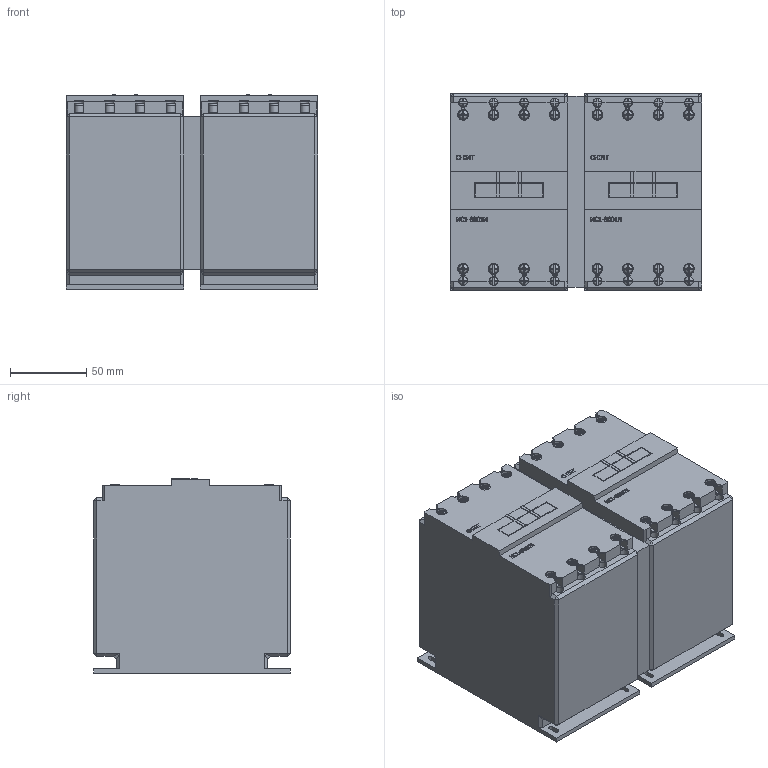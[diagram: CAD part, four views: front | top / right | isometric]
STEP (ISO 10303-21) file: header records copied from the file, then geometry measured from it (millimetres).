
FILE_DESCRIPTION(/* description */ (''),/* implementation_level */ '2;1');
FILE_NAME(/* name */ 'D:\CHINT2\NC1-N\NC1-8001N 230В 50Гц.stp',/* time_stamp */ '2017-11-12T20:43:09+03:00',/* author */ ('RSagdiev'),/* organization */ (''),/* preprocessor_version */ 'ST-DEVELOPER v16.5',/* originating_system */ 'Autodesk Inventor 2017',/* authorisation */ '');
FILE_SCHEMA (('AUTOMOTIVE_DESIGN { 1 0 10303 214 3 1 1 }'));
Products named in the file (1): NC1-8001N 230В 50Гц
Bounding box: 165 x 129 x 127.5 mm (x, y, z)
Volume: 2532563.1 mm3; surface area: 143017.3 mm2
Topology: 43 solids, 43 shells, 2992 faces, 8038 edges, 5292 vertices
Faces by surface type: plane 2076, bspline 804, cylinder 96, torus 16
Full cylindrical faces by diameter (mm): 5.8 x16, 6 x32
Entity records: 100659 total; most frequent: CARTESIAN_POINT 31185, ORIENTED_EDGE 15920, DIRECTION 11234, EDGE_CURVE 7960, LINE 5444, VECTOR 5444, VERTEX_POINT 5278, EDGE_LOOP 3264
